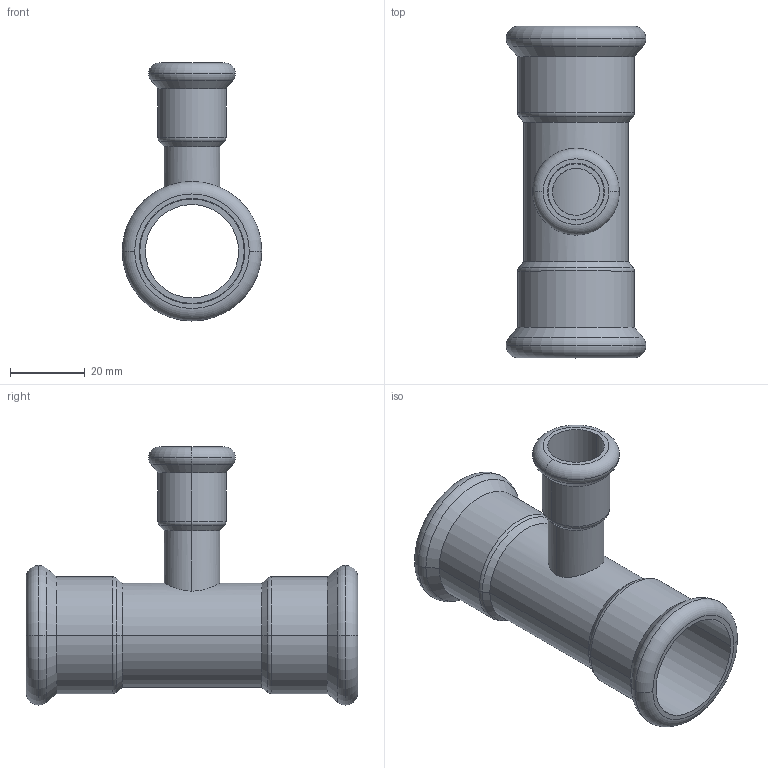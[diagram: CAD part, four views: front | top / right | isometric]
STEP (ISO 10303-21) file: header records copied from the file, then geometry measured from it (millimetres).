
FILE_DESCRIPTION(('CoCreate Modeling STEP Export'),'2;1');
FILE_NAME('C1415 28x15x28.stp','2014-11-11T17:07:54',(''),(''),'CoCreate Modeling STEP processor for AP214 (Solid Model)','CoCreate Modeling 17.00A 17-Jun-2010 (C) Parametric Technology GmbH','');
FILE_SCHEMA(('AUTOMOTIVE_DESIGN { 1 0 10303 214 1 1 1 1 }'));
Length unit declared in the file: millimetre
Products named in the file (2): C1415_28x15x28
Assembly tree (1 placements, depth 2):
  C1415_28x15x28
    C1415_28x15x28
Bounding box: 37.45 x 89 x 69.22 mm (x, y, z)
Volume: 19350.7 mm3; surface area: 21424.3 mm2
Topology: 1 solids, 1 shells, 66 faces, 135 edges, 79 vertices
Faces by surface type: cylinder 27, torus 18, cone 12, plane 9
Entity records: 2410 total; most frequent: CARTESIAN_POINT 1183, ORIENTED_EDGE 270, DIRECTION 218, EDGE_CURVE 135, AXIS2_PLACEMENT_3D 90, VERTEX_POINT 79, EDGE_LOOP 76, FACE_OUTER_BOUND 66
